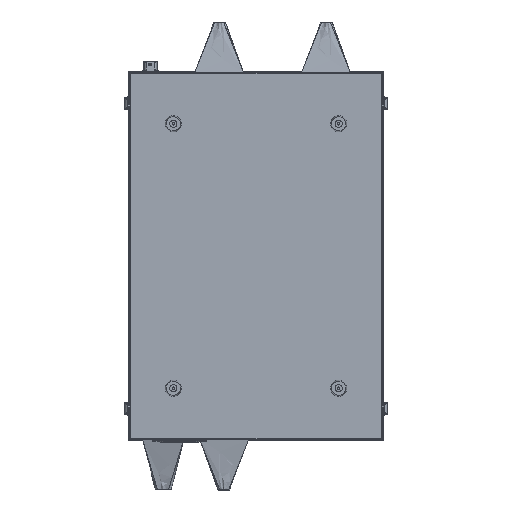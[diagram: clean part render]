
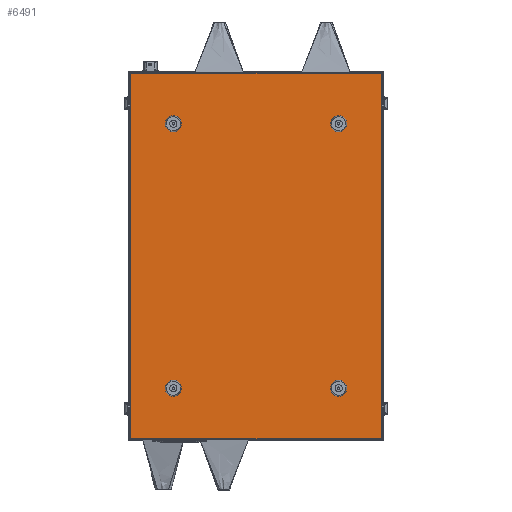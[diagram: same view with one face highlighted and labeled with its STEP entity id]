
A CAD part, front view. The second image highlights one B-rep face of the part: STEP entity #6491.
In plain terms, the highlighted planar face has unit normal (0, -1, 0).
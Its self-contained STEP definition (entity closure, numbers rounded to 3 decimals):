
#325 = DIRECTION ( 'NONE',  ( 0., 0., -1. ) ) ;
#893 = EDGE_LOOP ( 'NONE', ( #17963, #41530 ) ) ;
#1781 = EDGE_CURVE ( 'NONE', #26093, #52259, #26171, .T. ) ;
#2202 = ORIENTED_EDGE ( 'NONE', *, *, #8240, .F. ) ;
#2690 = EDGE_CURVE ( 'NONE', #26847, #24881, #3432, .T. ) ;
#3012 = EDGE_LOOP ( 'NONE', ( #10103, #7477 ) ) ;
#3432 = LINE ( 'NONE', #33409, #4950 ) ;
#3606 = EDGE_CURVE ( 'NONE', #29668, #15685, #41065, .T. ) ;
#3803 = EDGE_LOOP ( 'NONE', ( #34698, #22029, #58269, #31447 ) ) ;
#3863 = ORIENTED_EDGE ( 'NONE', *, *, #18343, .F. ) ;
#4005 = CARTESIAN_POINT ( 'NONE',  ( -246.3, -1.2, 358.8 ) ) ;
#4950 = VECTOR ( 'NONE', #21086, 1000. ) ;
#5258 = EDGE_LOOP ( 'NONE', ( #60262, #3863 ) ) ;
#5265 = FACE_OUTER_BOUND ( 'NONE', #3803, .T. ) ;
#5602 = CIRCLE ( 'NONE', #48394, 2. ) ;
#6491 = ADVANCED_FACE ( 'NONE', ( #18116, #56557, #45223, #30923, #5265 ), #32839, .T. ) ;
#7064 = DIRECTION ( 'NONE',  ( 0., -1., 0. ) ) ;
#7118 = CIRCLE ( 'NONE', #49375, 2. ) ;
#7265 = CARTESIAN_POINT ( 'NONE',  ( -162.5, -1.2, 262. ) ) ;
#7477 = ORIENTED_EDGE ( 'NONE', *, *, #1781, .F. ) ;
#7647 = CARTESIAN_POINT ( 'NONE',  ( -162.5, -1.2, -260. ) ) ;
#8005 = CARTESIAN_POINT ( 'NONE',  ( 162.5, -1.2, 258. ) ) ;
#8034 = EDGE_CURVE ( 'NONE', #26847, #51385, #40358, .T. ) ;
#8051 = CIRCLE ( 'NONE', #35597, 2. ) ;
#8240 = EDGE_CURVE ( 'NONE', #15685, #29668, #7118, .T. ) ;
#8487 = DIRECTION ( 'NONE',  ( 0., -1., 0. ) ) ;
#9010 = EDGE_LOOP ( 'NONE', ( #39557, #2202 ) ) ;
#10075 = CARTESIAN_POINT ( 'NONE',  ( 246.3, -1.2, 0. ) ) ;
#10103 = ORIENTED_EDGE ( 'NONE', *, *, #48247, .F. ) ;
#11145 = AXIS2_PLACEMENT_3D ( 'NONE', #51989, #51783, #51569 ) ;
#11707 = CARTESIAN_POINT ( 'NONE',  ( 246.3, -1.2, -358.8 ) ) ;
#12424 = EDGE_CURVE ( 'NONE', #61917, #47030, #28664, .T. ) ;
#12510 = DIRECTION ( 'NONE',  ( 0., 0., -1. ) ) ;
#13665 = DIRECTION ( 'NONE',  ( 0., -1., 0. ) ) ;
#15685 = VERTEX_POINT ( 'NONE', #34795 ) ;
#17011 = LINE ( 'NONE', #52518, #41123 ) ;
#17963 = ORIENTED_EDGE ( 'NONE', *, *, #12424, .F. ) ;
#18116 = FACE_BOUND ( 'NONE', #5258, .T. ) ;
#18343 = EDGE_CURVE ( 'NONE', #37399, #46920, #29844, .T. ) ;
#18357 = EDGE_CURVE ( 'NONE', #40973, #51385, #17011, .T. ) ;
#18629 = CARTESIAN_POINT ( 'NONE',  ( 246.3, -1.2, 358.8 ) ) ;
#18765 = CARTESIAN_POINT ( 'NONE',  ( 162.5, -1.2, 260. ) ) ;
#20105 = AXIS2_PLACEMENT_3D ( 'NONE', #18765, #52455, #23611 ) ;
#21086 = DIRECTION ( 'NONE',  ( -1., 0., 0. ) ) ;
#21107 = AXIS2_PLACEMENT_3D ( 'NONE', #52309, #23451, #57168 ) ;
#21310 = DIRECTION ( 'NONE',  ( 0., -1., 0. ) ) ;
#21522 = VECTOR ( 'NONE', #52565, 1000. ) ;
#22029 = ORIENTED_EDGE ( 'NONE', *, *, #18357, .T. ) ;
#23451 = DIRECTION ( 'NONE',  ( 0., -1., 0. ) ) ;
#23611 = DIRECTION ( 'NONE',  ( 0., 0., -1. ) ) ;
#24881 = VERTEX_POINT ( 'NONE', #4005 ) ;
#26093 = VERTEX_POINT ( 'NONE', #7265 ) ;
#26171 = CIRCLE ( 'NONE', #11145, 2. ) ;
#26639 = DIRECTION ( 'NONE',  ( 0., -1., 0. ) ) ;
#26847 = VERTEX_POINT ( 'NONE', #18629 ) ;
#27178 = EDGE_CURVE ( 'NONE', #46920, #37399, #8051, .T. ) ;
#28664 = CIRCLE ( 'NONE', #28983, 2. ) ;
#28983 = AXIS2_PLACEMENT_3D ( 'NONE', #55499, #26639, #60345 ) ;
#29668 = VERTEX_POINT ( 'NONE', #8005 ) ;
#29844 = CIRCLE ( 'NONE', #21107, 2. ) ;
#30923 = FACE_BOUND ( 'NONE', #3012, .T. ) ;
#31447 = ORIENTED_EDGE ( 'NONE', *, *, #2690, .T. ) ;
#31536 = CIRCLE ( 'NONE', #38058, 2. ) ;
#32839 = PLANE ( 'NONE',  #46834 ) ;
#33409 = CARTESIAN_POINT ( 'NONE',  ( -246.3, -1.2, 358.8 ) ) ;
#34698 = ORIENTED_EDGE ( 'NONE', *, *, #42023, .F. ) ;
#34795 = CARTESIAN_POINT ( 'NONE',  ( 162.5, -1.2, 262. ) ) ;
#35597 = AXIS2_PLACEMENT_3D ( 'NONE', #50178, #21310, #55012 ) ;
#35954 = CARTESIAN_POINT ( 'NONE',  ( 162.5, -1.2, 260. ) ) ;
#37332 = VECTOR ( 'NONE', #325, 1000. ) ;
#37377 = CARTESIAN_POINT ( 'NONE',  ( -162.5, -1.2, 260. ) ) ;
#37399 = VERTEX_POINT ( 'NONE', #46943 ) ;
#37700 = CARTESIAN_POINT ( 'NONE',  ( 0., -1.2, 0. ) ) ;
#37799 = DIRECTION ( 'NONE',  ( 1., 0., 0. ) ) ;
#38058 = AXIS2_PLACEMENT_3D ( 'NONE', #37377, #8487, #42219 ) ;
#39557 = ORIENTED_EDGE ( 'NONE', *, *, #3606, .F. ) ;
#40358 = LINE ( 'NONE', #10075, #37332 ) ;
#40666 = CARTESIAN_POINT ( 'NONE',  ( -246.3, -1.2, -358.8 ) ) ;
#40812 = DIRECTION ( 'NONE',  ( 0., 0., -1. ) ) ;
#40973 = VERTEX_POINT ( 'NONE', #40666 ) ;
#41065 = CIRCLE ( 'NONE', #20105, 2. ) ;
#41090 = CARTESIAN_POINT ( 'NONE',  ( -162.5, -1.2, -258. ) ) ;
#41123 = VECTOR ( 'NONE', #37799, 1000. ) ;
#41371 = DIRECTION ( 'NONE',  ( 0., -1., 0. ) ) ;
#41530 = ORIENTED_EDGE ( 'NONE', *, *, #44428, .F. ) ;
#42023 = EDGE_CURVE ( 'NONE', #40973, #24881, #58487, .T. ) ;
#42219 = DIRECTION ( 'NONE',  ( 0., 0., -1. ) ) ;
#43013 = CARTESIAN_POINT ( 'NONE',  ( -162.5, -1.2, -262. ) ) ;
#44428 = EDGE_CURVE ( 'NONE', #47030, #61917, #5602, .T. ) ;
#45086 = CARTESIAN_POINT ( 'NONE',  ( 162.5, -1.2, -262. ) ) ;
#45223 = FACE_BOUND ( 'NONE', #9010, .T. ) ;
#46834 = AXIS2_PLACEMENT_3D ( 'NONE', #37700, #13665, #47365 ) ;
#46920 = VERTEX_POINT ( 'NONE', #45086 ) ;
#46943 = CARTESIAN_POINT ( 'NONE',  ( 162.5, -1.2, -258. ) ) ;
#47030 = VERTEX_POINT ( 'NONE', #41090 ) ;
#47365 = DIRECTION ( 'NONE',  ( 0., 0., -1. ) ) ;
#47714 = CARTESIAN_POINT ( 'NONE',  ( -246.3, -1.2, 0. ) ) ;
#47836 = CARTESIAN_POINT ( 'NONE',  ( -162.5, -1.2, 258. ) ) ;
#48247 = EDGE_CURVE ( 'NONE', #52259, #26093, #31536, .T. ) ;
#48394 = AXIS2_PLACEMENT_3D ( 'NONE', #7647, #41371, #12510 ) ;
#49375 = AXIS2_PLACEMENT_3D ( 'NONE', #35954, #7064, #40812 ) ;
#50178 = CARTESIAN_POINT ( 'NONE',  ( 162.5, -1.2, -260. ) ) ;
#51385 = VERTEX_POINT ( 'NONE', #11707 ) ;
#51569 = DIRECTION ( 'NONE',  ( 0., 0., -1. ) ) ;
#51783 = DIRECTION ( 'NONE',  ( 0., -1., 0. ) ) ;
#51989 = CARTESIAN_POINT ( 'NONE',  ( -162.5, -1.2, 260. ) ) ;
#52259 = VERTEX_POINT ( 'NONE', #47836 ) ;
#52309 = CARTESIAN_POINT ( 'NONE',  ( 162.5, -1.2, -260. ) ) ;
#52455 = DIRECTION ( 'NONE',  ( 0., -1., 0. ) ) ;
#52518 = CARTESIAN_POINT ( 'NONE',  ( 246.3, -1.2, -358.8 ) ) ;
#52565 = DIRECTION ( 'NONE',  ( 0., 0., 1. ) ) ;
#55012 = DIRECTION ( 'NONE',  ( 0., 0., -1. ) ) ;
#55499 = CARTESIAN_POINT ( 'NONE',  ( -162.5, -1.2, -260. ) ) ;
#56557 = FACE_BOUND ( 'NONE', #893, .T. ) ;
#57168 = DIRECTION ( 'NONE',  ( 0., 0., -1. ) ) ;
#58269 = ORIENTED_EDGE ( 'NONE', *, *, #8034, .F. ) ;
#58487 = LINE ( 'NONE', #47714, #21522 ) ;
#60262 = ORIENTED_EDGE ( 'NONE', *, *, #27178, .F. ) ;
#60345 = DIRECTION ( 'NONE',  ( 0., 0., -1. ) ) ;
#61917 = VERTEX_POINT ( 'NONE', #43013 ) ;
